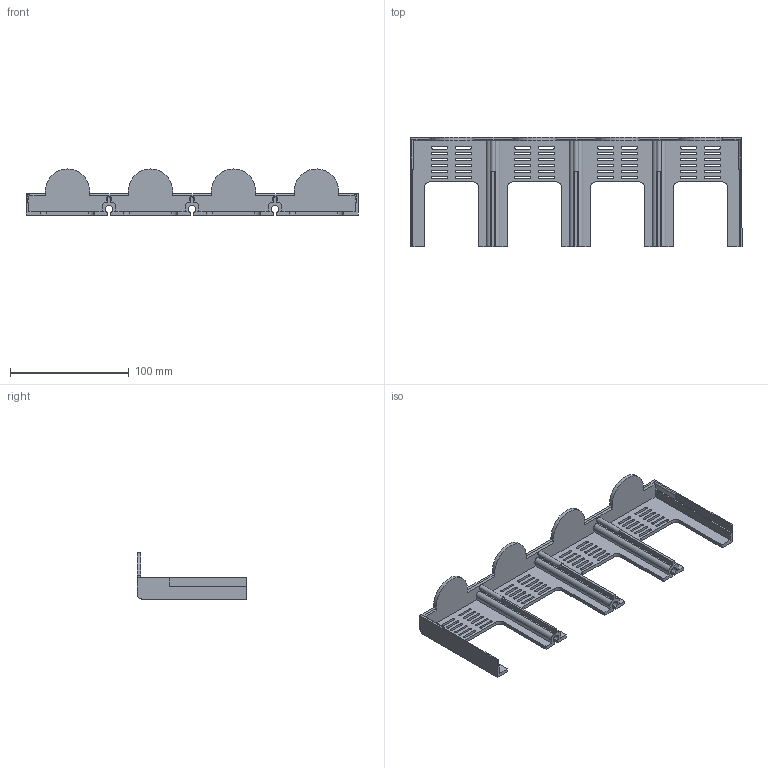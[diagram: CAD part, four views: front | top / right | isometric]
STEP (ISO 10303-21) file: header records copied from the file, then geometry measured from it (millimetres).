
FILE_DESCRIPTION (( 'STEP AP214' ), '1' );
FILE_NAME ('TGM1NE-1250-4P 孰屐祉 牮觇.STEP', '2025-12-10T13:14:22', ( '' ), ( '' ), 'SwSTEP 2.0', 'SolidWorks 2024', '' );
FILE_SCHEMA (( 'AUTOMOTIVE_DESIGN' ));
Length unit declared in the file: millimetre
Products named in the file (3): TGM1NE-1250-4P Клеммные крышки.stp; TGM1NE-1250-4P Клеммные крышки; 8TZD_742_6485_1.stp
Assembly tree (2 placements, depth 3):
  TGM1NE-1250-4P Клеммные крышки
    TGM1NE-1250-4P Клеммные крышки.stp
      8TZD_742_6485_1.stp
Bounding box: 280 x 92.5 x 38.85 mm (x, y, z)
Volume: 81787.4 mm3; surface area: 67029.2 mm2
Topology: 1 solids, 1 shells, 364 faces, 1087 edges, 725 vertices
Faces by surface type: cylinder 185, plane 179
Entity records: 12754 total; most frequent: CARTESIAN_POINT 2338, DIRECTION 2183, ORIENTED_EDGE 2174, EDGE_CURVE 1087, AXIS2_PLACEMENT_3D 736, VERTEX_POINT 725, LINE 711, VECTOR 711
